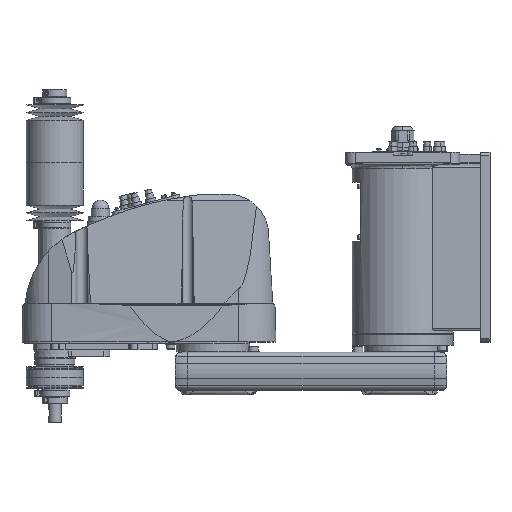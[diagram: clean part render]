
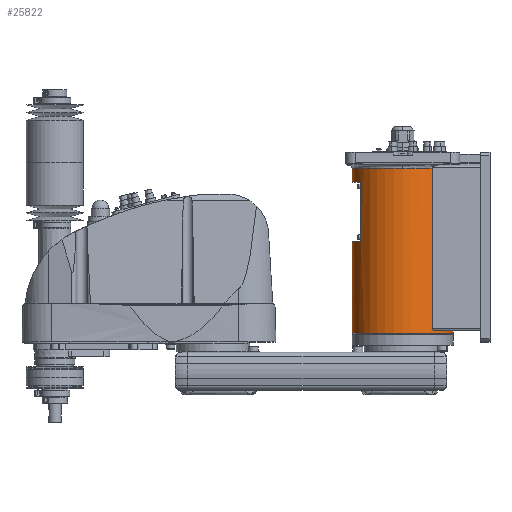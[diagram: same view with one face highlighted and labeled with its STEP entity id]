
A CAD part, top view. The second image highlights one B-rep face of the part: STEP entity #25822.
In plain terms, the highlighted cylindrical face has radius 80 mm (diameter 160 mm), a partial arc.
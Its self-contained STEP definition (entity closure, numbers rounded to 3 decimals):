
#9796 = EDGE_CURVE( '', #12606, #9894, #28236, .T. );
#9894 = VERTEX_POINT( '', #28342 );
#10964 = VERTEX_POINT( '', #29524 );
#11700 = VERTEX_POINT( '', #30333 );
#11788 = VERTEX_POINT( '', #30433 );
#11928 = EDGE_CURVE( '', #14630, #11788, #30590, .T. );
#12606 = VERTEX_POINT( '', #31357 );
#12744 = EDGE_CURVE( '', #25400, #21874, #31507, .T. );
#12880 = VERTEX_POINT( '', #31660 );
#14142 = EDGE_CURVE( '', #11788, #15680, #33058, .T. );
#14226 = EDGE_CURVE( '', #21462, #14630, #33150, .T. );
#14630 = VERTEX_POINT( '', #33607 );
#15680 = VERTEX_POINT( '', #34786 );
#17054 = EDGE_CURVE( '', #23980, #12606, #36348, .T. );
#17278 = EDGE_CURVE( '', #21874, #10964, #36606, .T. );
#17336 = EDGE_CURVE( '', #11700, #10964, #36666, .T. );
#19636 = EDGE_CURVE( '', #25400, #12880, #39215, .T. );
#20680 = EDGE_CURVE( '', #15680, #11700, #40376, .T. );
#21462 = VERTEX_POINT( '', #41230 );
#21874 = VERTEX_POINT( '', #41683 );
#22242 = EDGE_CURVE( '', #12880, #23980, #42087, .T. );
#23760 = EDGE_CURVE( '', #9894, #21462, #43802, .T. );
#23980 = VERTEX_POINT( '', #44052 );
#25400 = VERTEX_POINT( '', #45614 );
#25822 = ADVANCED_FACE( '', ( #46095 ), #46096, .T. );
#28236 = CIRCLE( '', #49010, 80. );
#28342 = CARTESIAN_POINT( '', ( -80., 176., 0. ) );
#29524 = CARTESIAN_POINT( '', ( 46.637, 291.5, 65. ) );
#30333 = CARTESIAN_POINT( '', ( 46.637, 37.5, 65. ) );
#30433 = CARTESIAN_POINT( '', ( 80., 34.5, 0. ) );
#30590 = LINE( '', #52795, #52796 );
#31357 = CARTESIAN_POINT( '', ( -66., 176., 45.211 ) );
#31507 = CIRCLE( '', #54195, 80. );
#31660 = CARTESIAN_POINT( '', ( -80., 269., 0. ) );
#33058 = CIRCLE( '', #56471, 80. );
#33150 = CIRCLE( '', #56590, 80. );
#33607 = CARTESIAN_POINT( '', ( 80., 30., 0. ) );
#34786 = CARTESIAN_POINT( '', ( 50.557, 34.5, 62. ) );
#36348 = LINE( '', #61490, #61491 );
#36606 = CIRCLE( '', #61875, 80. );
#36666 = LINE( '', #61966, #61967 );
#39215 = LINE( '', #65932, #65933 );
#40376 = B_SPLINE_CURVE_WITH_KNOTS( '', 3, ( #67851, #67852, #67853, #67854, #67855, #67856, #67857, #67858, #67859, #67860, #67861, #67862, #67863, #67864, #67865, #67866 ), .UNSPECIFIED., .F., .F., ( 4, 2, 2, 2, 2, 2, 2, 4 ), ( -6.06, -5.11, -4.16, -2.26, -1.695, -1.13, -0.565, 0. ), .UNSPECIFIED. );
#41230 = CARTESIAN_POINT( '', ( -80., 30., 0. ) );
#41683 = CARTESIAN_POINT( '', ( 0., 291.5, 80. ) );
#42087 = CIRCLE( '', #70694, 80. );
#43802 = LINE( '', #73265, #73266 );
#44052 = CARTESIAN_POINT( '', ( -66., 269., 45.211 ) );
#45614 = CARTESIAN_POINT( '', ( -80., 291.5, 0. ) );
#46095 = FACE_OUTER_BOUND( '', #76691, .T. );
#46096 = CYLINDRICAL_SURFACE( '', #76692, 80. );
#49010 = AXIS2_PLACEMENT_3D( '', #80328, #80329, #80330 );
#52795 = CARTESIAN_POINT( '', ( 80., 160.75, 0. ) );
#52796 = VECTOR( '', #82939, 1. );
#54195 = AXIS2_PLACEMENT_3D( '', #84002, #84003, #84004 );
#56471 = AXIS2_PLACEMENT_3D( '', #85746, #85747, #85748 );
#56590 = AXIS2_PLACEMENT_3D( '', #85832, #85833, #85834 );
#61490 = CARTESIAN_POINT( '', ( -66., 222.5, 45.211 ) );
#61491 = VECTOR( '', #89753, 1. );
#61875 = AXIS2_PLACEMENT_3D( '', #90095, #90096, #90097 );
#61966 = CARTESIAN_POINT( '', ( 46.637, 164.5, 65. ) );
#61967 = VECTOR( '', #90141, 1. );
#65932 = CARTESIAN_POINT( '', ( -80., 160.75, 0. ) );
#65933 = VECTOR( '', #93017, 1. );
#67851 = CARTESIAN_POINT( '', ( 50.557, 34.5, 62. ) );
#67852 = CARTESIAN_POINT( '', ( 50.312, 34.5, 62.2 ) );
#67853 = CARTESIAN_POINT( '', ( 50.054, 34.52, 62.407 ) );
#67854 = CARTESIAN_POINT( '', ( 49.533, 34.607, 62.822 ) );
#67855 = CARTESIAN_POINT( '', ( 49.269, 34.674, 63.029 ) );
#67856 = CARTESIAN_POINT( '', ( 48.491, 34.945, 63.632 ) );
#67857 = CARTESIAN_POINT( '', ( 47.991, 35.221, 64.009 ) );
#67858 = CARTESIAN_POINT( '', ( 47.455, 35.701, 64.405 ) );
#67859 = CARTESIAN_POINT( '', ( 47.333, 35.827, 64.495 ) );
#67860 = CARTESIAN_POINT( '', ( 47.106, 36.105, 64.661 ) );
#67861 = CARTESIAN_POINT( '', ( 47.002, 36.258, 64.736 ) );
#67862 = CARTESIAN_POINT( '', ( 46.828, 36.585, 64.863 ) );
#67863 = CARTESIAN_POINT( '', ( 46.758, 36.761, 64.913 ) );
#67864 = CARTESIAN_POINT( '', ( 46.662, 37.124, 64.982 ) );
#67865 = CARTESIAN_POINT( '', ( 46.637, 37.312, 65. ) );
#67866 = CARTESIAN_POINT( '', ( 46.637, 37.5, 65. ) );
#70694 = AXIS2_PLACEMENT_3D( '', #96170, #96171, #96172 );
#73265 = CARTESIAN_POINT( '', ( -80., 160.75, 0. ) );
#73266 = VECTOR( '', #98257, 1. );
#76691 = EDGE_LOOP( '', ( #100957, #100958, #100959, #100960, #100961, #100962, #100963, #100964, #100965, #100966, #100967, #100968 ) );
#76692 = AXIS2_PLACEMENT_3D( '', #100969, #100970, #100971 );
#80328 = CARTESIAN_POINT( '', ( 0., 176., 0. ) );
#80329 = DIRECTION( '', ( 0., -1., 0. ) );
#80330 = DIRECTION( '', ( 1., 0., 0. ) );
#82939 = DIRECTION( '', ( 0., 1., 0. ) );
#84002 = CARTESIAN_POINT( '', ( 0., 291.5, 0. ) );
#84003 = DIRECTION( '', ( 0., 1., 0. ) );
#84004 = DIRECTION( '', ( 1., 0., 0. ) );
#85746 = CARTESIAN_POINT( '', ( 0., 34.5, 0. ) );
#85747 = DIRECTION( '', ( 0., -1., 0. ) );
#85748 = DIRECTION( '', ( 1., 0., 0. ) );
#85832 = CARTESIAN_POINT( '', ( 0., 30., 0. ) );
#85833 = DIRECTION( '', ( 0., 1., 0. ) );
#85834 = DIRECTION( '', ( 1., 0., 0. ) );
#89753 = DIRECTION( '', ( 0., -1., 0. ) );
#90095 = CARTESIAN_POINT( '', ( 0., 291.5, 0. ) );
#90096 = DIRECTION( '', ( 0., 1., 0. ) );
#90097 = DIRECTION( '', ( 1., 0., 0. ) );
#90141 = DIRECTION( '', ( 0., 1., 0. ) );
#93017 = DIRECTION( '', ( 0., -1., 0. ) );
#96170 = CARTESIAN_POINT( '', ( 0., 269., 0. ) );
#96171 = DIRECTION( '', ( 0., 1., 0. ) );
#96172 = DIRECTION( '', ( 1., 0., 0. ) );
#98257 = DIRECTION( '', ( 0., -1., 0. ) );
#100957 = ORIENTED_EDGE( '', *, *, #11928, .T. );
#100958 = ORIENTED_EDGE( '', *, *, #14142, .T. );
#100959 = ORIENTED_EDGE( '', *, *, #20680, .T. );
#100960 = ORIENTED_EDGE( '', *, *, #17336, .T. );
#100961 = ORIENTED_EDGE( '', *, *, #17278, .F. );
#100962 = ORIENTED_EDGE( '', *, *, #12744, .F. );
#100963 = ORIENTED_EDGE( '', *, *, #19636, .T. );
#100964 = ORIENTED_EDGE( '', *, *, #22242, .T. );
#100965 = ORIENTED_EDGE( '', *, *, #17054, .T. );
#100966 = ORIENTED_EDGE( '', *, *, #9796, .T. );
#100967 = ORIENTED_EDGE( '', *, *, #23760, .T. );
#100968 = ORIENTED_EDGE( '', *, *, #14226, .T. );
#100969 = CARTESIAN_POINT( '', ( 0., 160.75, 0. ) );
#100970 = DIRECTION( '', ( 0., -1., 0. ) );
#100971 = DIRECTION( '', ( 1., 0., 0. ) );
